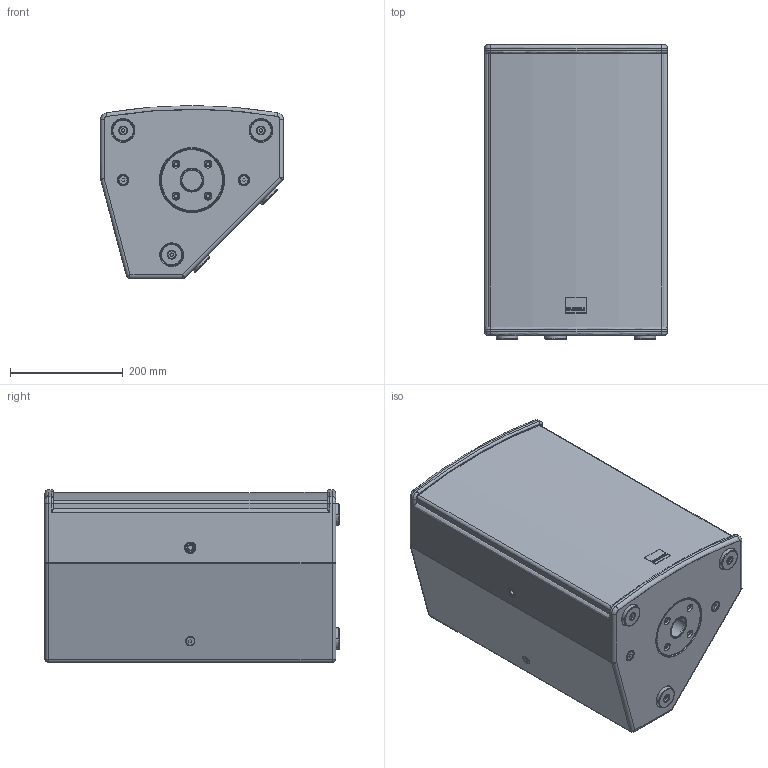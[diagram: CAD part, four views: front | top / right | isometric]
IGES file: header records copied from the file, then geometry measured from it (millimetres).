
Start section: SolidWorks IGES file using analytic representation for surfaces
Global section: file name: C:\Dokumente und Einstellungen\PC_Fabian\Desktop\3d_Dateien_Homepage\A-Serie\SEEBURG_A4.IGS; native system: SolidWorks 2009; preprocessor: SolidWorks 2009; author: PC_Fabian; date: 120927.154844; units: millimetre
Bounding box: 324 x 521 x 306 mm (x, y, z)
Surface area: 1758744.7 mm2 (no closed solid volume)
Topology: 0 solids, 0 shells, 716 faces, 9618 edges, 9616 vertices
Faces by surface type: revolution 379, bspline 337
